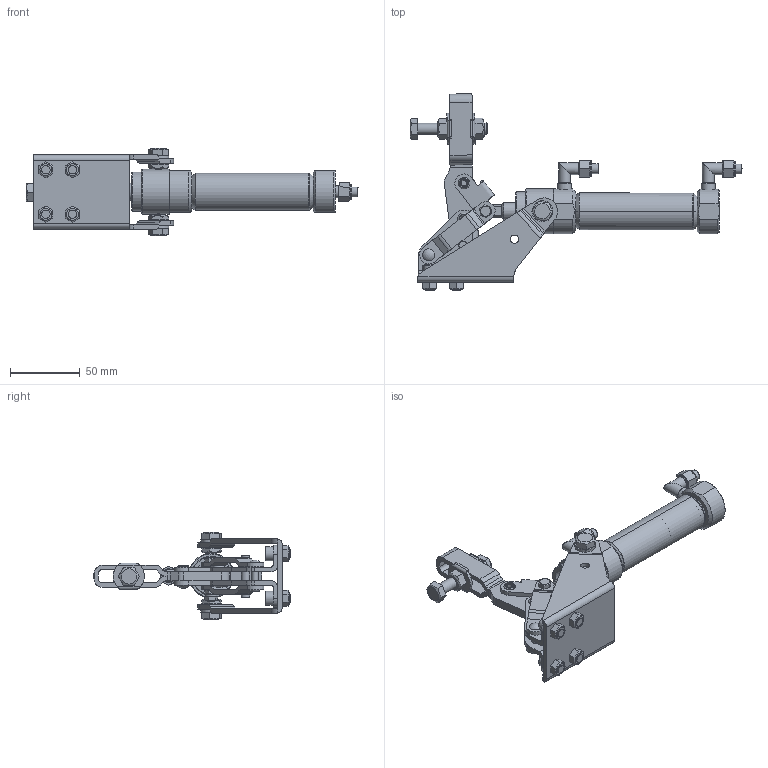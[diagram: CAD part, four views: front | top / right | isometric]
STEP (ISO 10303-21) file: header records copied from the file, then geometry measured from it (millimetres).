
FILE_DESCRIPTION(/* description */ (''),/* implementation_level */ '2;1');
FILE_NAME(/* name */ 'E:\3D作業領域\エアークランプ（スタンダード置替）\AC450V\AC450V (ul).stp',/* time_stamp */ '2024-04-16T09:10:44+09:00',/* author */ ('takahashi'),/* organization */ (''),/* preprocessor_version */ 'ST-DEVELOPER v18.1',/* originating_system */ 'Autodesk Inventor 2020',/* authorisation */ '');
FILE_SCHEMA (('AUTOMOTIVE_DESIGN { 1 0 10303 214 3 1 1 }'));
Length unit declared in the file: millimetre
Products named in the file (33): AC450V (ul); AC450フレーム; AC450フレーム_1; M8コンタルナット; AC450シリンダー支持ボルト; AC450シリンダー支持ボルト_
1; M8SW; HV450ベース（リベットアセンブリ済）; HV450ベース; リベット5x12.55; HV450アーム; AC450レバー; AC450レバー_1; リベット5x19.45; AC450シリンダー連結ボルト; M5SW; M5コンタルナット; HV450リンク（リベットアセンブリ済）; HV450リンク; リベット5x12.81; AC450Sシリンダー(CMK2-00-25-50-T0H-D
-V); CMK2-00-25-50-T0H-D-V_6; Φ25用取付金具; CMK2-00-25-50-T0H-D-V_1; ニップルL型; ニップルL型_1; 袋ナット; スリーブb; M8×50ボルト; M8ナット; HV450ワッシャー; キャップスクリューM6; M6ナット
Assembly tree (43 placements, depth 4):
  AC450V (ul)
    AC450フレーム
      AC450フレーム_1
      M8コンタルナット  x2
      AC450シリンダー支持ボルト  x2
        AC450シリンダー支持ボルト_
1
        M8SW
    HV450ベース（リベットアセンブリ済）
      HV450ベース
      リベット5x12.55
    HV450アーム
    AC450レバー
      AC450レバー_1
      リベット5x19.45
      AC450シリンダー連結ボルト
      M5SW
      M5コンタルナット  x2
    HV450リンク（リベットアセンブリ済）
      HV450リンク
      リベット5x12.81
    AC450Sシリンダー(CMK2-00-25-50-T0H-D
-V)
      CMK2-00-25-50-T0H-D-V_6
      Φ25用取付金具
    CMK2-00-25-50-T0H-D-V_1
    ニップルL型  x2
      ニップルL型_1
      袋ナット
      スリーブb
    M8×50ボルト
    M8ナット  x2
    HV450ワッシャー
    キャップスクリューM6  x4
    M6ナット  x4
Bounding box: 237.81 x 140.47 x 62.6 mm (x, y, z)
Volume: 150278.4 mm3; surface area: 99939.1 mm2
Topology: 41 solids, 41 shells, 707 faces, 1704 edges, 1124 vertices
Faces by surface type: plane 385, cylinder 235, cone 76, torus 6, sphere 3, bspline 2
Full cylindrical faces by diameter (mm): 3 x2, 3.4 x1, 4 x2, 4.1 x2, 4.5 x4, 4.99 x3, 5 x17, 5.015 x1, 5.2 x1, 5.9 x2, 6 x13, 6.08 x2, 6.1 x4, 6.5 x2, 7 x6, 7.1 x4, 7.3 x2, 8 x7, 8.01 x2, 8.2 x3, 8.45 x2, 8.5 x6, 8.7 x1, 10 x10, 11 x2, 12 x1, 15 x2, 21.8 x1, 26 x1, 28 x1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
Entity records: 18131 total; most frequent: CARTESIAN_POINT 3565, DIRECTION 2984, ORIENTED_EDGE 2668, EDGE_CURVE 1334, AXIS2_PLACEMENT_3D 1152, VERTEX_POINT 882, LINE 680, VECTOR 680
